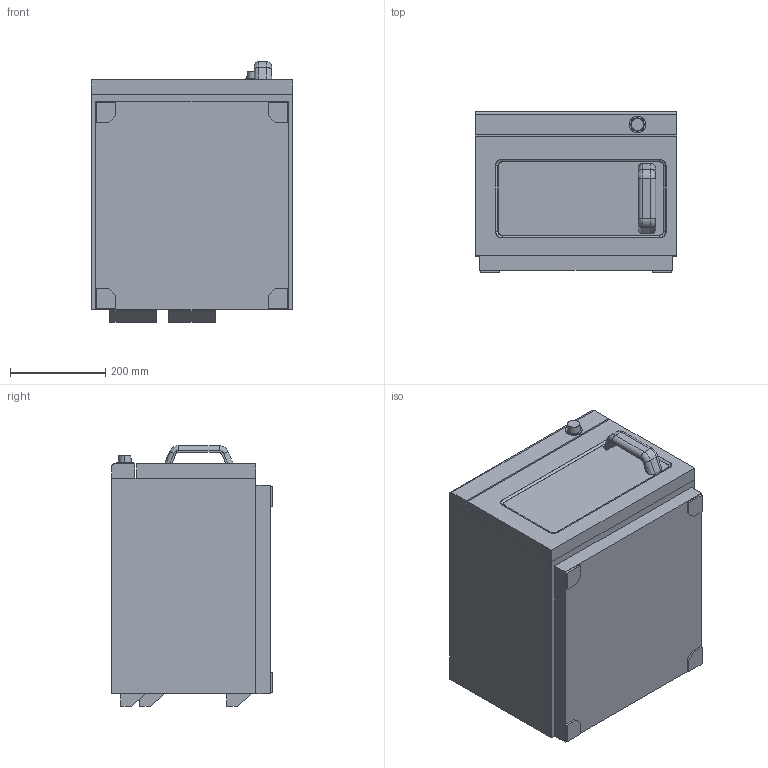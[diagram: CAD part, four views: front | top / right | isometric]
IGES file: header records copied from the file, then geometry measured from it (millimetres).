
Start section: SolidWorks IGES file using analytic representation for surfaces
Bounding box: 422 x 337 x 546 mm (x, y, z)
Surface area: 1064650 mm2 (no closed solid volume)
Topology: 0 solids, 0 shells, 116 faces, 962 edges, 962 vertices
Faces by surface type: bspline 89, revolution 27
